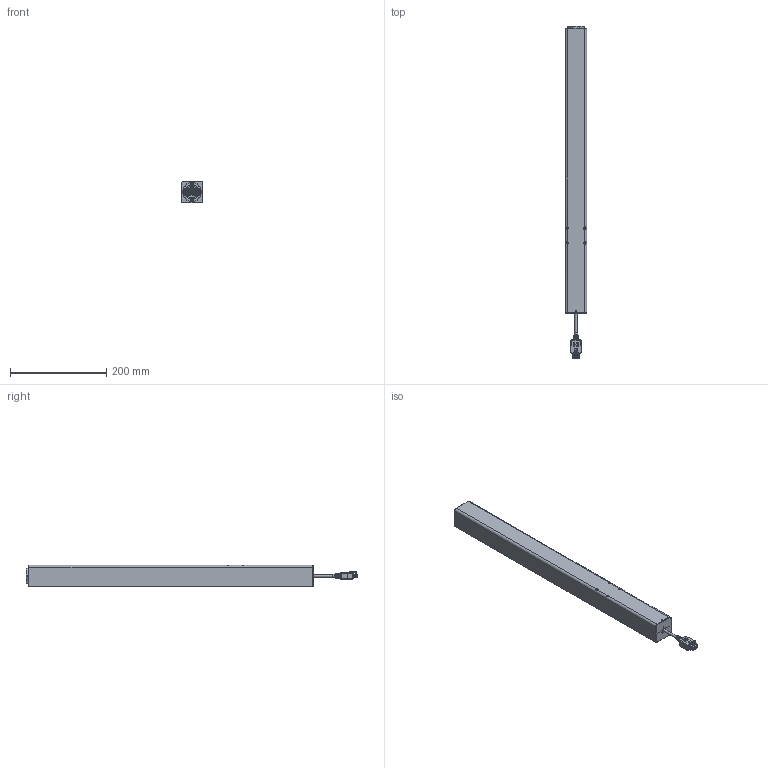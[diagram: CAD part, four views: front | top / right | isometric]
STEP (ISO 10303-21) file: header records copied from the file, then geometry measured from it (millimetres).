
FILE_DESCRIPTION(/* description */ ('Unknown'),/* implementation_level */ '2;1');
FILE_NAME(/* name */ '904.01003_00-eingefahren',/* time_stamp */ '2022-02-02T09:36:56+01:00',/* author */ ('Unknown'),/* organization */ ('Unknown'),/* preprocessor_version */ 'ST-DEVELOPER v18.1',/* originating_system */ 'Solid Edge',/* authorisation */ 'Unknown');
FILE_SCHEMA (('AUTOMOTIVE_DESIGN {1 0 10303 214 3 1 1}'));
Products named in the file (9): 904.01003; 119.00470; 123.00115; 125.00272; 128.00015; 128.00026; 142.00239; 142.00275; Kabel Molex_kurz
Assembly tree (13 placements, depth 2):
  904.01003
    119.00470
    123.00115
    125.00272
    128.00015
    128.00026  x2
    142.00239  x4
    142.00275  x2
    Kabel Molex_kurz
Bounding box: 45 x 691.5 x 45 mm (x, y, z)
Volume: 602093.3 mm3; surface area: 303782.2 mm2
Topology: 13 solids, 13 shells, 3177 faces, 8620 edges, 5549 vertices
Faces by surface type: plane 1922, cylinder 768, bspline 206, torus 129, sphere 78, cone 74
Full cylindrical faces by diameter (mm): 1.25 x2, 2.459 x2, 2.6 x2, 3 x2, 4 x12, 4.917 x6, 5 x1, 6.647 x1, 8.376 x2, 28.3 x1, 30 x1, 31.8 x3, 32 x2, 36 x2, 39 x1, 44 x1
Entity records: 64556 total; most frequent: CARTESIAN_POINT 14974, ORIENTED_EDGE 9750, DIRECTION 9116, EDGE_CURVE 4875, LINE 3300, VECTOR 3300, VERTEX_POINT 3188, AXIS2_PLACEMENT_3D 2908
